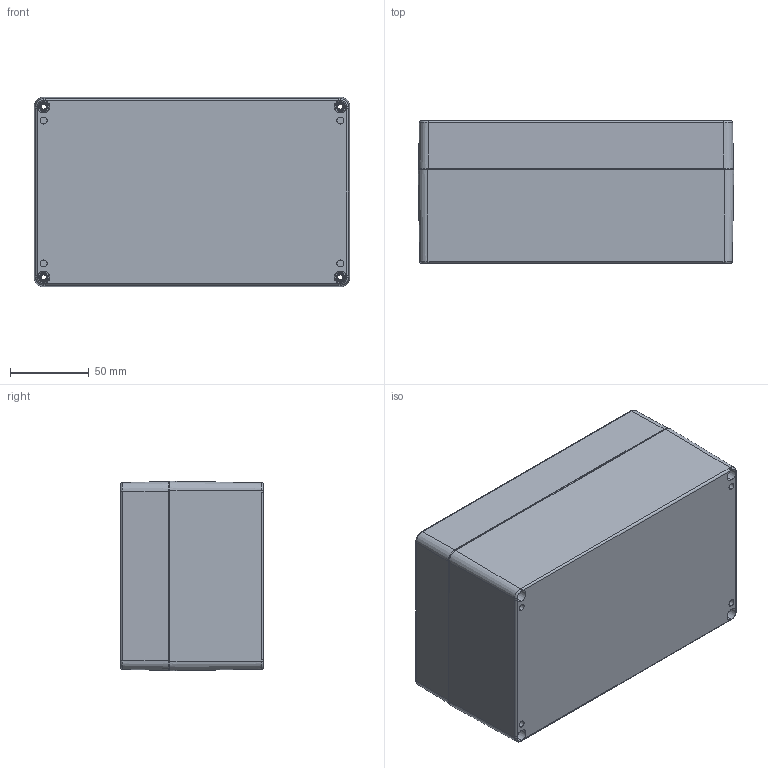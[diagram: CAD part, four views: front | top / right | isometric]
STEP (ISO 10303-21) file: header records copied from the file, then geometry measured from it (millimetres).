
FILE_DESCRIPTION (( 'STEP AP203' ), '1' );
FILE_NAME ('PE242.STEP', '2020-01-02T07:06:32', ( '' ), ( '' ), 'SwSTEP 2.0', 'SolidWorks 2020', '' );
FILE_SCHEMA (( 'CONFIG_CONTROL_DESIGN' ));
Length unit declared in the file: millimetre
Products named in the file (4): PE242
Assembly tree (3 placements, depth 2):
  PE242
    PE242
    PE242
    PE242
Bounding box: 199.97 x 90.3 x 120.07 mm (x, y, z)
Volume: 404933.2 mm3; surface area: 268747.3 mm2
Topology: 11 solids, 11 shells, 1391 faces, 3672 edges, 2366 vertices
Faces by surface type: bspline 452, cylinder 396, plane 291, cone 248, torus 4
Entity records: 48424 total; most frequent: CARTESIAN_POINT 16061, ORIENTED_EDGE 7308, DIRECTION 5882, EDGE_CURVE 3654, VERTEX_POINT 2366, AXIS2_PLACEMENT_3D 2203, EDGE_LOOP 1536, VECTOR 1476
